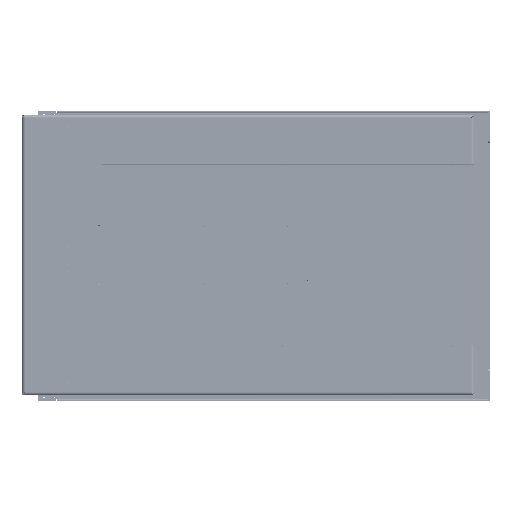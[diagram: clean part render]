
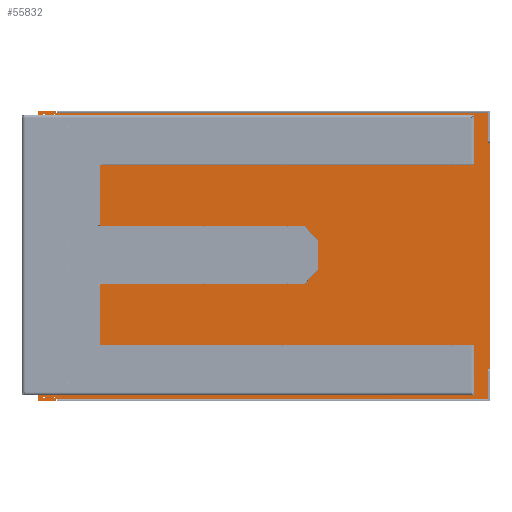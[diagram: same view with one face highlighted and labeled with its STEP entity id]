
A CAD part, top view. The second image highlights one B-rep face of the part: STEP entity #55832.
In plain terms, the highlighted planar face has unit normal (0, 0, 1).
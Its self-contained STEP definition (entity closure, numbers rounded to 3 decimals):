
#2309=PLANE('',#59661);
#3967=LINE('',#81473,#9261);
#3970=LINE('',#81481,#9264);
#3972=LINE('',#81485,#9266);
#3976=LINE('',#81491,#9270);
#3977=LINE('',#81494,#9271);
#3978=LINE('',#81496,#9272);
#3979=LINE('',#81498,#9273);
#3980=LINE('',#81500,#9274);
#3981=LINE('',#81502,#9275);
#3982=LINE('',#81504,#9276);
#3983=LINE('',#81506,#9277);
#3984=LINE('',#81507,#9278);
#9261=VECTOR('',#65215,10.);
#9264=VECTOR('',#65220,10.);
#9266=VECTOR('',#65224,10.);
#9270=VECTOR('',#65230,10.);
#9271=VECTOR('',#65233,10.);
#9272=VECTOR('',#65234,10.);
#9273=VECTOR('',#65235,10.);
#9274=VECTOR('',#65236,10.);
#9275=VECTOR('',#65237,10.);
#9276=VECTOR('',#65238,10.);
#9277=VECTOR('',#65239,10.);
#9278=VECTOR('',#65240,10.);
#14556=FACE_BOUND('',#18212,.T.);
#14557=FACE_BOUND('',#18213,.T.);
#14558=FACE_BOUND('',#18214,.T.);
#14559=FACE_BOUND('',#18215,.T.);
#14560=FACE_BOUND('',#18216,.T.);
#14561=FACE_BOUND('',#18217,.T.);
#14562=FACE_BOUND('',#18218,.T.);
#14563=FACE_BOUND('',#18219,.T.);
#15044=FACE_OUTER_BOUND('',#18211,.T.);
#18211=EDGE_LOOP('',(#38108,#38109,#38110,#38111,#38112,#38113,#38114,#38115,
#38116,#38117,#38118,#38119));
#18212=EDGE_LOOP('',(#38120));
#18213=EDGE_LOOP('',(#38121));
#18214=EDGE_LOOP('',(#38122));
#18215=EDGE_LOOP('',(#38123));
#18216=EDGE_LOOP('',(#38124));
#18217=EDGE_LOOP('',(#38125));
#18218=EDGE_LOOP('',(#38126));
#18219=EDGE_LOOP('',(#38127));
#21802=CIRCLE('',#59610,2.35);
#21804=CIRCLE('',#59613,2.35);
#21806=CIRCLE('',#59616,2.35);
#21808=CIRCLE('',#59619,2.35);
#21818=CIRCLE('',#59634,7.);
#21820=CIRCLE('',#59637,7.);
#21822=CIRCLE('',#59640,7.);
#21824=CIRCLE('',#59643,7.);
#24105=VERTEX_POINT('',#81374);
#24107=VERTEX_POINT('',#81379);
#24109=VERTEX_POINT('',#81384);
#24111=VERTEX_POINT('',#81389);
#24121=VERTEX_POINT('',#81414);
#24123=VERTEX_POINT('',#81419);
#24125=VERTEX_POINT('',#81424);
#24127=VERTEX_POINT('',#81429);
#24138=VERTEX_POINT('',#81458);
#24139=VERTEX_POINT('',#81462);
#24143=VERTEX_POINT('',#81478);
#24144=VERTEX_POINT('',#81480);
#24145=VERTEX_POINT('',#81484);
#24147=VERTEX_POINT('',#81493);
#24148=VERTEX_POINT('',#81495);
#24149=VERTEX_POINT('',#81497);
#24150=VERTEX_POINT('',#81499);
#24151=VERTEX_POINT('',#81501);
#24152=VERTEX_POINT('',#81503);
#24153=VERTEX_POINT('',#81505);
#29693=EDGE_CURVE('',#24105,#24105,#21802,.T.);
#29695=EDGE_CURVE('',#24107,#24107,#21804,.T.);
#29697=EDGE_CURVE('',#24109,#24109,#21806,.T.);
#29699=EDGE_CURVE('',#24111,#24111,#21808,.T.);
#29709=EDGE_CURVE('',#24121,#24121,#21818,.T.);
#29711=EDGE_CURVE('',#24123,#24123,#21820,.T.);
#29713=EDGE_CURVE('',#24125,#24125,#21822,.T.);
#29715=EDGE_CURVE('',#24127,#24127,#21824,.T.);
#29736=EDGE_CURVE('',#24138,#24139,#3967,.T.);
#29739=EDGE_CURVE('',#24144,#24143,#3970,.T.);
#29741=EDGE_CURVE('',#24145,#24138,#3972,.T.);
#29745=EDGE_CURVE('',#24143,#24145,#3976,.T.);
#29746=EDGE_CURVE('',#24147,#24139,#3977,.T.);
#29747=EDGE_CURVE('',#24147,#24148,#3978,.T.);
#29748=EDGE_CURVE('',#24148,#24149,#3979,.T.);
#29749=EDGE_CURVE('',#24149,#24150,#3980,.T.);
#29750=EDGE_CURVE('',#24150,#24151,#3981,.T.);
#29751=EDGE_CURVE('',#24152,#24151,#3982,.T.);
#29752=EDGE_CURVE('',#24153,#24152,#3983,.T.);
#29753=EDGE_CURVE('',#24144,#24153,#3984,.T.);
#38108=ORIENTED_EDGE('',*,*,#29739,.T.);
#38109=ORIENTED_EDGE('',*,*,#29745,.T.);
#38110=ORIENTED_EDGE('',*,*,#29741,.T.);
#38111=ORIENTED_EDGE('',*,*,#29736,.T.);
#38112=ORIENTED_EDGE('',*,*,#29746,.F.);
#38113=ORIENTED_EDGE('',*,*,#29747,.T.);
#38114=ORIENTED_EDGE('',*,*,#29748,.T.);
#38115=ORIENTED_EDGE('',*,*,#29749,.T.);
#38116=ORIENTED_EDGE('',*,*,#29750,.T.);
#38117=ORIENTED_EDGE('',*,*,#29751,.F.);
#38118=ORIENTED_EDGE('',*,*,#29752,.F.);
#38119=ORIENTED_EDGE('',*,*,#29753,.F.);
#38120=ORIENTED_EDGE('',*,*,#29693,.T.);
#38121=ORIENTED_EDGE('',*,*,#29695,.T.);
#38122=ORIENTED_EDGE('',*,*,#29697,.T.);
#38123=ORIENTED_EDGE('',*,*,#29699,.T.);
#38124=ORIENTED_EDGE('',*,*,#29709,.T.);
#38125=ORIENTED_EDGE('',*,*,#29711,.T.);
#38126=ORIENTED_EDGE('',*,*,#29713,.T.);
#38127=ORIENTED_EDGE('',*,*,#29715,.T.);
#55832=ADVANCED_FACE('',(#15044,#14556,#14557,#14558,#14559,#14560,#14561,
#14562,#14563),#2309,.T.);
#59610=AXIS2_PLACEMENT_3D('',#81375,#65104,#65105);
#59613=AXIS2_PLACEMENT_3D('',#81380,#65110,#65111);
#59616=AXIS2_PLACEMENT_3D('',#81385,#65116,#65117);
#59619=AXIS2_PLACEMENT_3D('',#81390,#65122,#65123);
#59634=AXIS2_PLACEMENT_3D('',#81415,#65152,#65153);
#59637=AXIS2_PLACEMENT_3D('',#81420,#65158,#65159);
#59640=AXIS2_PLACEMENT_3D('',#81425,#65164,#65165);
#59643=AXIS2_PLACEMENT_3D('',#81430,#65170,#65171);
#59661=AXIS2_PLACEMENT_3D('',#81492,#65231,#65232);
#65104=DIRECTION('center_axis',(0.,0.,-1.));
#65105=DIRECTION('ref_axis',(1.,0.,0.));
#65110=DIRECTION('center_axis',(0.,0.,-1.));
#65111=DIRECTION('ref_axis',(1.,0.,0.));
#65116=DIRECTION('center_axis',(0.,0.,-1.));
#65117=DIRECTION('ref_axis',(1.,0.,0.));
#65122=DIRECTION('center_axis',(0.,0.,-1.));
#65123=DIRECTION('ref_axis',(1.,0.,0.));
#65152=DIRECTION('center_axis',(0.,0.,-1.));
#65153=DIRECTION('ref_axis',(1.,0.,0.));
#65158=DIRECTION('center_axis',(0.,0.,-1.));
#65159=DIRECTION('ref_axis',(1.,0.,0.));
#65164=DIRECTION('center_axis',(0.,0.,-1.));
#65165=DIRECTION('ref_axis',(1.,0.,0.));
#65170=DIRECTION('center_axis',(0.,0.,-1.));
#65171=DIRECTION('ref_axis',(1.,0.,0.));
#65215=DIRECTION('',(1.,0.,0.));
#65220=DIRECTION('',(0.,1.,0.));
#65224=DIRECTION('',(0.,-1.,0.));
#65230=DIRECTION('',(1.,0.,0.));
#65231=DIRECTION('center_axis',(0.,0.,1.));
#65232=DIRECTION('ref_axis',(1.,0.,0.));
#65233=DIRECTION('',(0.,-1.,0.));
#65234=DIRECTION('',(-1.,0.,0.));
#65235=DIRECTION('',(0.,-1.,0.));
#65236=DIRECTION('',(-1.,0.,0.));
#65237=DIRECTION('',(0.,1.,0.));
#65238=DIRECTION('',(1.,0.,0.));
#65239=DIRECTION('',(0.,1.,0.));
#65240=DIRECTION('',(-1.,0.,0.));
#81374=CARTESIAN_POINT('',(-702.65,-453.,3.));
#81375=CARTESIAN_POINT('Origin',(-705.,-453.,3.));
#81379=CARTESIAN_POINT('',(-668.65,-453.,3.));
#81380=CARTESIAN_POINT('Origin',(-671.,-453.,3.));
#81384=CARTESIAN_POINT('',(-668.65,453.,3.));
#81385=CARTESIAN_POINT('Origin',(-671.,453.,3.));
#81389=CARTESIAN_POINT('',(-702.65,453.,3.));
#81390=CARTESIAN_POINT('Origin',(-705.,453.,3.));
#81414=CARTESIAN_POINT('',(617.,-340.,3.));
#81415=CARTESIAN_POINT('Origin',(610.,-340.,3.));
#81419=CARTESIAN_POINT('',(617.,340.,3.));
#81420=CARTESIAN_POINT('Origin',(610.,340.,3.));
#81424=CARTESIAN_POINT('',(-681.,-400.,3.));
#81425=CARTESIAN_POINT('Origin',(-688.,-400.,3.));
#81429=CARTESIAN_POINT('',(-681.,400.,3.));
#81430=CARTESIAN_POINT('Origin',(-688.,400.,3.));
#81458=CARTESIAN_POINT('',(-663.,-459.,3.));
#81462=CARTESIAN_POINT('',(725.,-459.,3.));
#81473=CARTESIAN_POINT('',(362.5,-459.,3.));
#81478=CARTESIAN_POINT('',(-666.,-457.5,3.));
#81480=CARTESIAN_POINT('',(-666.,-465.,3.));
#81481=CARTESIAN_POINT('',(-666.,-228.75,3.));
#81484=CARTESIAN_POINT('',(-663.,-457.5,3.));
#81485=CARTESIAN_POINT('',(-663.,-232.5,3.));
#81491=CARTESIAN_POINT('',(-331.5,-457.5,3.));
#81492=CARTESIAN_POINT('Origin',(0.,0.,3.));
#81493=CARTESIAN_POINT('',(725.,459.,3.));
#81494=CARTESIAN_POINT('',(725.,465.,3.));
#81495=CARTESIAN_POINT('',(-663.,459.,3.));
#81496=CARTESIAN_POINT('',(-331.5,459.,3.));
#81497=CARTESIAN_POINT('',(-663.,457.5,3.));
#81498=CARTESIAN_POINT('',(-663.,228.75,3.));
#81499=CARTESIAN_POINT('',(-666.,457.5,3.));
#81500=CARTESIAN_POINT('',(-333.,457.5,3.));
#81501=CARTESIAN_POINT('',(-666.,465.,3.));
#81502=CARTESIAN_POINT('',(-666.,232.5,3.));
#81503=CARTESIAN_POINT('',(-725.,465.,3.));
#81504=CARTESIAN_POINT('',(-725.,465.,3.));
#81505=CARTESIAN_POINT('',(-725.,-465.,3.));
#81506=CARTESIAN_POINT('',(-725.,-465.,3.));
#81507=CARTESIAN_POINT('',(725.,-465.,3.));
